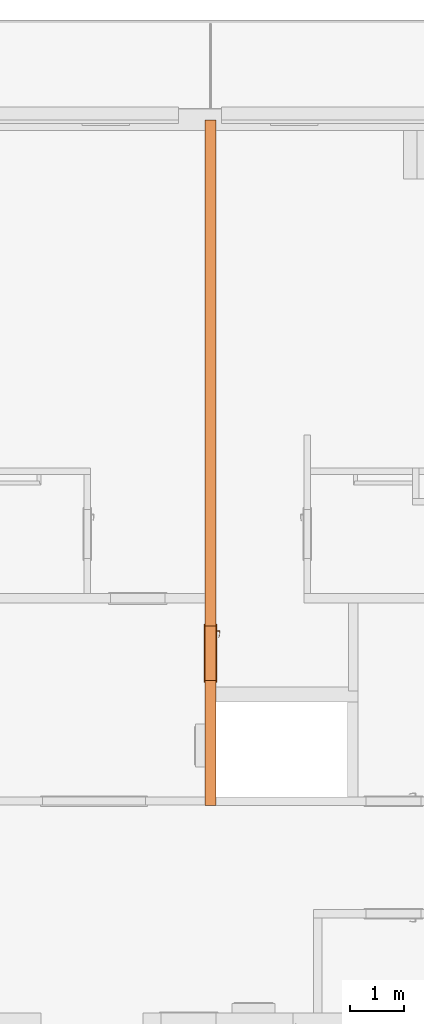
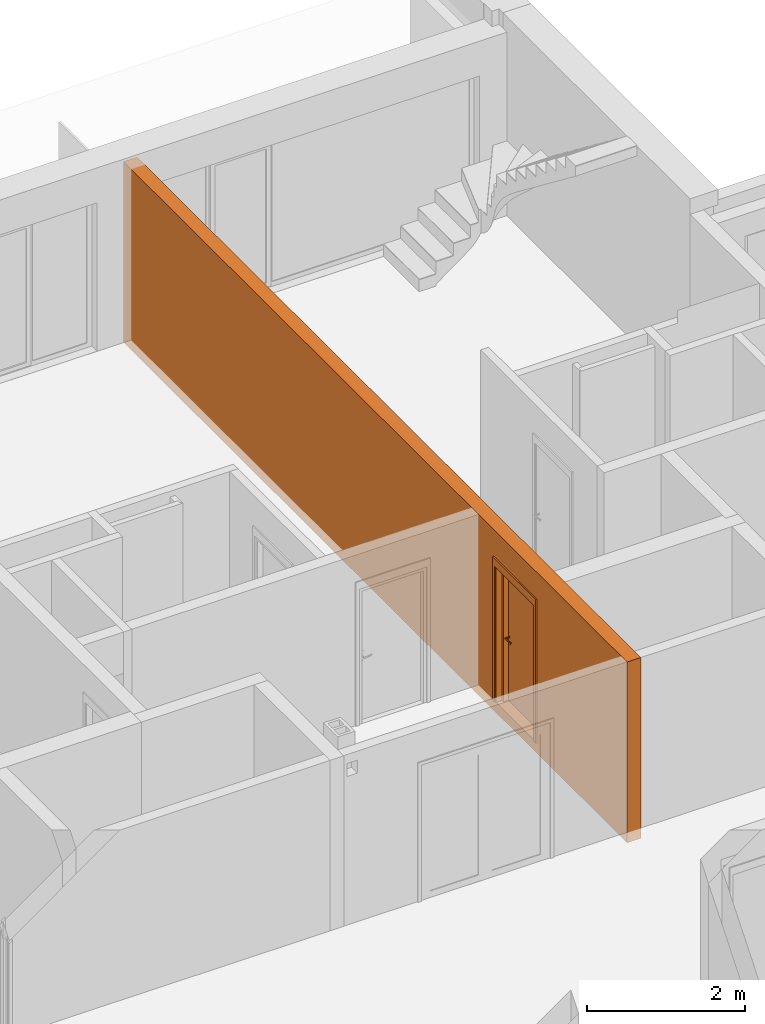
# One storey, part 31 of 61: 2 proxies, 1 opening.
"""IFC2X3 building model written with IfcOpenShell, lengths in millimetres."""

import ifcopenshell
import ifcopenshell.guid

model = None  # the IFC model being written
_history = None  # IfcOwnerHistory: only IFC2X3 demands one
_inside = {}  # id of a spatial element -> (the spatial element, [elements in it])
_under = {}  # id of a project, library or spatial element -> (it, [spatial elements below it])
_declared = {}  # id of a project -> (the project, [libraries it declares])
_typed = {}  # id of a type object -> (the type object, [elements of that type])
_made_of = {}  # id of a material, layer set ... -> (it, [elements and type objects made of it])


def new_model(schema):
    """Start an empty IFC model of exactly this schema.

    Asked for "IFC4X3", IfcOpenShell would pick the latest addendum, in which some entities
    have other attributes; the version numbers below select the first issue.
    IFC2X3 requires an IfcOwnerHistory on every rooted entity: one is made here for all.
    """
    global model, _history
    if schema == "IFC4X3":
        model = ifcopenshell.file(schema_version=(4, 3, 0, 0))
    else:
        model = ifcopenshell.file(schema=schema)
    _inside.clear()
    _under.clear()
    _declared.clear()
    _typed.clear()
    _made_of.clear()
    _history = None
    if model.schema == "IFC2X3":
        org = make("IfcOrganization", Name="unknown")
        user = make(
            "IfcPersonAndOrganization",
            ThePerson=make("IfcPerson", FamilyName="unknown"),
            TheOrganization=org,
        )
        app = make(
            "IfcApplication",
            ApplicationDeveloper=org,
            Version="unknown",
            ApplicationFullName="unknown",
            ApplicationIdentifier="unknown",
        )
        _history = make(
            "IfcOwnerHistory",
            OwningUser=user,
            OwningApplication=app,
            ChangeAction="ADDED",
            CreationDate=0,
        )
    return model


def make(cls, **values):
    """One entity of the class cls with the attributes given. An attribute that is None is left unset."""
    return model.create_entity(
        cls, **{name: value for name, value in values.items() if value is not None}
    )


def entity(cls, *values):
    """Any entity or typed value of the class cls, its attributes in the order of the schema. None: left unset."""
    e = model.create_entity(cls)
    for i, value in enumerate(values):
        if value is not None:
            e[i] = value
    return e


def rooted(cls, **values):
    """An entity with a GlobalId (a new one), such as an element, a storey or a relation."""
    return make(cls, GlobalId=ifcopenshell.guid.new(), OwnerHistory=_history, **values)


def si_unit(unit_type, name, prefix=None):
    """IfcSIUnit, for example si_unit("LENGTHUNIT", "METRE", prefix="MILLI")."""
    return make("IfcSIUnit", UnitType=unit_type, Prefix=prefix, Name=name)


def converted_unit(unit_type, name, factor, base, dimensions=None, offset=None):
    """IfcConversionBasedUnit, such as the inch: factor (a typed value) times the base unit."""
    return make(
        "IfcConversionBasedUnit"
        if offset is None
        else "IfcConversionBasedUnitWithOffset",
        ConversionOffset=offset,
        Dimensions=None
        if dimensions is None
        else entity("IfcDimensionalExponents", *dimensions),
        UnitType=unit_type,
        Name=name,
        ConversionFactor=make(
            "IfcMeasureWithUnit", ValueComponent=factor, UnitComponent=base
        ),
    )


def derived_unit(unit_type, elements):
    """IfcDerivedUnit: a product of units, each with its exponent."""
    return make(
        "IfcDerivedUnit",
        Elements=[
            make("IfcDerivedUnitElement", Unit=unit, Exponent=power)
            for unit, power in elements
        ],
        UnitType=unit_type,
    )


def money_unit(currency):
    """IfcMonetaryUnit."""
    return make("IfcMonetaryUnit", Currency=currency)


def assignment(units):
    """IfcUnitAssignment: the units of a project."""
    return None if units is None else make("IfcUnitAssignment", Units=units)


def point(xyz):
    """IfcCartesianPoint."""
    return None if xyz is None else make("IfcCartesianPoint", Coordinates=xyz)


def direction(xyz):
    """IfcDirection."""
    return None if xyz is None else make("IfcDirection", DirectionRatios=xyz)


def frame(location, z_axis=None, x_axis=None):
    """IfcAxis2Placement3D, a coordinate frame: its origin and axes. An axis left out is left unset."""
    return make(
        "IfcAxis2Placement3D",
        Location=point(location),
        Axis=direction(z_axis),
        RefDirection=direction(x_axis),
    )


def frame_2d(location, x_axis=None):
    """IfcAxis2Placement2D, a coordinate frame in the plane: its origin and x axis."""
    return make(
        "IfcAxis2Placement2D", Location=point(location), RefDirection=direction(x_axis)
    )


def origin_with_axes():
    """The frame at (0, 0, 0) with the z axis (0, 0, 1) and the x axis (1, 0, 0) written out."""
    return frame((0.0, 0.0, 0.0), z_axis=(0.0, 0.0, 1.0), x_axis=(1.0, 0.0, 0.0))


def origin_2d_with_axis():
    """The frame at (0, 0) in the plane with the x axis (1, 0) written out."""
    return frame_2d((0.0, 0.0), x_axis=(1.0, 0.0))


def place(relative_to, where):
    """IfcLocalPlacement: puts the frame where relative to a parent placement (None: the world)."""
    return make(
        "IfcLocalPlacement", PlacementRelTo=relative_to, RelativePlacement=where
    )


def context(
    kind, dimensions, precision=None, world=None, true_north=None, identifier=None
):
    """IfcGeometricRepresentationContext, for example the 3D "Model" context."""
    return make(
        "IfcGeometricRepresentationContext",
        ContextIdentifier=identifier,
        ContextType=kind,
        CoordinateSpaceDimension=dimensions,
        Precision=precision,
        WorldCoordinateSystem=world,
        TrueNorth=true_north,
    )


def subcontext(parent, identifier, kind, view, scale=None):
    """IfcGeometricRepresentationSubContext, for example "Body" below "Model"."""
    return make(
        "IfcGeometricRepresentationSubContext",
        ContextIdentifier=identifier,
        ContextType=kind,
        ParentContext=parent,
        TargetScale=scale,
        TargetView=view,
    )


def project(units=None, contexts=None):
    """IfcProject with its units and contexts."""
    return rooted(
        "IfcProject",
        Name="project",
        RepresentationContexts=contexts,
        UnitsInContext=assignment(units),
    )


def spatial(cls, under=None, at=None, **own):
    """A site, building, storey or space (cls), placed at a placement, below another one or the project."""
    s = rooted(cls, ObjectPlacement=at, **own)
    if under is not None:
        _under.setdefault(under.id(), (under, []))[1].append(s)
    return s


def profile(cls, at=None, kind="AREA", **sizes):
    """A parametric profile (cls). Its sizes go by their IFC names, for example OverallWidth=200.0."""
    return make(cls, ProfileType=kind, Position=at, **sizes)


def rectangle(**sizes):
    """IfcRectangleProfileDef."""
    return profile("IfcRectangleProfileDef", **sizes)


def extrude(swept, where, along, depth):
    """IfcExtrudedAreaSolid: the profile swept, set in the frame where, extruded along a direction by depth."""
    return make(
        "IfcExtrudedAreaSolid",
        SweptArea=swept,
        Position=where,
        ExtrudedDirection=direction(along),
        Depth=depth,
    )


def faces_of(points, faces, orient=None, outer=None):
    """IfcFace entities. A face is a list of loops; a loop is a list of indices into points, from 0.

    orient and outer hold one flag for each loop. By default every Orientation is true, the
    first loop of a face is its IfcFaceOuterBound and the others are IfcFaceBound.
    """
    made = []
    for i, loops in enumerate(faces):
        bounds = []
        for j, loop in enumerate(loops):
            is_outer = j == 0 if outer is None else outer[i][j]
            bounds.append(
                make(
                    "IfcFaceOuterBound" if is_outer else "IfcFaceBound",
                    Bound=make("IfcPolyLoop", Polygon=[points[k] for k in loop]),
                    Orientation=True if orient is None else orient[i][j],
                )
            )
        made.append(make("IfcFace", Bounds=bounds))
    return made


def open_shell(faces, orient=None, outer=None):
    """The faces of one IfcOpenShell. surface_model builds it on its shared points."""
    return ("IfcOpenShell", faces, orient, outer)


def faceted_brep(points, faces, orient=None, outer=None, voids=None):
    """IfcFacetedBrep: a solid bounded by flat faces; with voids (closed shells), ...WithVoids."""
    shared = [point(p) for p in points]
    hull = make("IfcClosedShell", CfsFaces=faces_of(shared, faces, orient, outer))
    if voids is None:
        return make("IfcFacetedBrep", Outer=hull)
    return make(
        "IfcFacetedBrepWithVoids",
        Outer=hull,
        Voids=[
            make(cls, CfsFaces=faces_of(shared, fs, o, b)) for cls, fs, o, b in voids
        ],
    )


def surface_model(cls, points, shells):
    """IfcFaceBasedSurfaceModel or IfcShellBasedSurfaceModel (cls): surfaces that need not close."""
    shared = [point(p) for p in points]
    made = [make(c, CfsFaces=faces_of(shared, fs, o, b)) for c, fs, o, b in shells]
    if cls == "IfcFaceBasedSurfaceModel":
        return make(cls, FbsmFaces=made)
    return make(cls, SbsmBoundary=made)


def shape(context_of_items, identifier, shape_type, items):
    """IfcShapeRepresentation: the items that make up one representation, for example the "Body"."""
    return make(
        "IfcShapeRepresentation",
        ContextOfItems=context_of_items,
        RepresentationIdentifier=identifier,
        RepresentationType=shape_type,
        Items=items,
    )


def source(mapping_origin, context_of_items, identifier, shape_type, items):
    """IfcRepresentationMap: a shape defined once, which mapped items show again and again."""
    return make(
        "IfcRepresentationMap",
        MappingOrigin=mapping_origin,
        MappedRepresentation=shape(context_of_items, identifier, shape_type, items),
    )


def transform(
    local_origin,
    x_axis=None,
    y_axis=None,
    z_axis=None,
    scale=None,
    scale2=None,
    scale3=None,
    uniform=True,
):
    """IfcCartesianTransformationOperator3D, or its non-uniform kind. x_axis, y_axis, z_axis: its Axis1, 2, 3."""
    if uniform:
        return make(
            "IfcCartesianTransformationOperator3D",
            Axis1=direction(x_axis),
            Axis2=direction(y_axis),
            LocalOrigin=point(local_origin),
            Scale=scale,
            Axis3=direction(z_axis),
        )
    return make(
        "IfcCartesianTransformationOperator3DnonUniform",
        Axis1=direction(x_axis),
        Axis2=direction(y_axis),
        LocalOrigin=point(local_origin),
        Scale=scale,
        Axis3=direction(z_axis),
        Scale2=scale2,
        Scale3=scale3,
    )


def mapped(mapping_source, mapping_target):
    """IfcMappedItem: shows the shape of a source again, moved by a transform."""
    return make(
        "IfcMappedItem", MappingSource=mapping_source, MappingTarget=mapping_target
    )


def material(Name=None, Category=None):
    """IfcMaterial."""
    return make("IfcMaterial", Name=Name, Category=Category)


def made_of(thing, what):
    """Note that an element or type object is made of a material, layer set ...; save() writes the relation."""
    if what is not None:
        _made_of.setdefault(what.id(), (what, []))[1].append(thing)
    return thing


def type_object(cls, material=None, **own):
    """A type object (cls), such as IfcWallType, which elements share."""
    return made_of(rooted(cls, **own), material)


def element(
    cls,
    number,
    at=None,
    inside=None,
    cuts=None,
    type_object=None,
    material=None,
    context=None,
    identifier="Body",
    shape_type=None,
    held_by="IfcProductDefinitionShape",
    body=None,
    shapes=None,
    **own,
):
    """One element of the class cls, such as IfcWall. Its Tag is "e" and its number.

    at: its placement. inside: the storey or other place that contains it. cuts: it is an
    opening in that element (IfcRelVoidsElement). A single representation is given by context,
    identifier, shape_type and body (its items); several are given by shapes. held_by: the class
    of the entity that holds the representations. save() writes the other relations.
    """
    e = rooted(cls, Tag="e%d" % number, ObjectPlacement=at, **own)
    if body is not None:
        shapes = [shape(context, identifier, shape_type, body)]
    if shapes is not None:
        e.Representation = make(held_by, Representations=shapes)
    if inside is not None:
        _inside.setdefault(inside.id(), (inside, []))[1].append(e)
    if cuts is not None:
        rooted(
            "IfcRelVoidsElement", RelatingBuildingElement=cuts, RelatedOpeningElement=e
        )
    if type_object is not None:
        _typed.setdefault(type_object.id(), (type_object, []))[1].append(e)
    return made_of(e, material)


def fill(opening, filler):
    """IfcRelFillsElement: the door or window that sits in an opening."""
    return rooted(
        "IfcRelFillsElement",
        RelatingOpeningElement=opening,
        RelatedBuildingElement=filler,
    )


def aggregate(whole, parts):
    """IfcRelAggregates: a whole, such as a stair, and the parts it consists of."""
    return rooted("IfcRelAggregates", RelatingObject=whole, RelatedObjects=parts)


def save(model, path):
    """Write the relations noted so far, then the file.

    IfcRelAggregates (storeys below a building ...), IfcRelContainedInSpatialStructure (elements
    in a storey), IfcRelDefinesByType, IfcRelAssociatesMaterial and IfcRelDeclares: one each for
    every whole, place, type object, material and project.
    """
    for whole, parts in _under.values():
        aggregate(whole, parts)
    for where, things in _inside.values():
        rooted(
            "IfcRelContainedInSpatialStructure",
            RelatedElements=things,
            RelatingStructure=where,
        )
    for kind, things in _typed.values():
        rooted("IfcRelDefinesByType", RelatedObjects=things, RelatingType=kind)
    for what, things in _made_of.values():
        rooted("IfcRelAssociatesMaterial", RelatedObjects=things, RelatingMaterial=what)
    for by, libraries in _declared.values():
        rooted("IfcRelDeclares", RelatingContext=by, RelatedDefinitions=libraries)
    model.write(path)


model = new_model("IFC2X3")

# Units and contexts
model_context = context("Model", 3, precision=0.01, world=origin_with_axes(), true_north=direction((0.34421633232, 0.938890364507)))
body_context = subcontext(model_context, "Body", "Model", "MODEL_VIEW")
ifc_project = project(units=[si_unit("LENGTHUNIT", "METRE", prefix="MILLI"), si_unit("AREAUNIT", "SQUARE_METRE"), si_unit("VOLUMEUNIT", "CUBIC_METRE"), converted_unit("PLANEANGLEUNIT", "DEGREE", entity("IfcPlaneAngleMeasure", 0.0174532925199), si_unit("PLANEANGLEUNIT", "RADIAN"), dimensions=[0, 0, 0, 0, 0, 0, 0]), si_unit("SOLIDANGLEUNIT", "STERADIAN"), money_unit("USD"), converted_unit("TIMEUNIT", "Year", entity("IfcTimeMeasure", 31556926.0), si_unit("TIMEUNIT", "SECOND"), dimensions=[0, 0, 1, 0, 0, 0, 0]), si_unit("MASSUNIT", "GRAM", prefix="KILO"), si_unit("THERMODYNAMICTEMPERATUREUNIT", "DEGREE_CELSIUS"), si_unit("LUMINOUSINTENSITYUNIT", "LUMEN"), si_unit("ENERGYUNIT", "JOULE", prefix="MEGA"), derived_unit("THERMALCONDUCTANCEUNIT", [(si_unit("POWERUNIT", "WATT"), 1), (si_unit("LENGTHUNIT", "METRE"), -1), (si_unit("THERMODYNAMICTEMPERATUREUNIT", "KELVIN"), -1)]), derived_unit("SPECIFICHEATCAPACITYUNIT", [(si_unit("ENERGYUNIT", "JOULE"), 1), (si_unit("MASSUNIT", "GRAM", prefix="KILO"), -1), (si_unit("THERMODYNAMICTEMPERATUREUNIT", "KELVIN"), -1)]), derived_unit("MASSDENSITYUNIT", [(si_unit("MASSUNIT", "GRAM", prefix="KILO"), 1), (si_unit("VOLUMEUNIT", "CUBIC_METRE"), -1)])], contexts=[model_context])

# Site, building, storey
site_placement = place(None, origin_with_axes())
site = spatial("IfcSite", under=ifc_project, at=site_placement, Name="USTRONIE MORSKIE", CompositionType="ELEMENT")
building_placement = place(site_placement, origin_with_axes())
building = spatial("IfcBuilding", under=site, at=building_placement, Name="Budynek", CompositionType="ELEMENT")
storey_placement = place(building_placement, frame((0.0, 0.0, 13000.0), z_axis=(0.0, 0.0, 1.0), x_axis=(1.0, 0.0, 0.0)))
storey = spatial("IfcBuildingStorey", under=building, at=storey_placement, Name="PIĘTRO 4", CompositionType="ELEMENT", Elevation=13000.0)

# Proxies, opening
ifc_material = material(Name="Beton konstrukcyjny B25")
building_element_proxy_type_1 = type_object("IfcBuildingElementProxyType", Name="Beton konstrukcyjny B25 200", PredefinedType="NOTDEFINED")
proxy_1_placement = place(storey_placement, frame((390817.920919, 749451.199036, -160.0), z_axis=(0.0, 0.0, 1.0), x_axis=(0.0, -1.0, 0.0)))
proxy_1 = element("IfcBuildingElementProxy", 1, at=proxy_1_placement, inside=storey, type_object=building_element_proxy_type_1, material=ifc_material, Name="SW-01", context=body_context, shape_type="Brep", body=[
    faceted_brep([(-100.0, -100.0, 2800.0), (12680.0, -100.0, 2800.0), (12680.0, 100.0, 2800.0), (-100.0, 100.0, 2800.0), (-100.0, -100.0, 0.0), (12680.0, -100.0, 0.0), (12680.0, 100.0, 0.0), (-100.0, 100.0, 0.0)], [[[0, 1, 2, 3]], [[4, 5, 1, 0]], [[6, 2, 1, 5]], [[3, 2, 6, 7]], [[7, 4, 0, 3]], [[7, 6, 5, 4]]]),
])
opening_placement = place(proxy_1_placement, frame((9840.0, 0.0, 160.0), z_axis=(0.0, 0.0, 1.0), x_axis=(1.0, 0.0, 0.0)))
opening = element("IfcOpeningElement", 2, at=opening_placement, cuts=proxy_1, Name="Dw.1", context=body_context, shape_type="SweptSolid", body=[
    extrude(rectangle(XDim=1020.0, YDim=2120.0, at=origin_2d_with_axis()), frame((0.0, -200.0, 1060.0), z_axis=(0.0, 1.0, 0.0), x_axis=(1.0, 0.0, 0.0)), (0.0, 0.0, 1.0), 600.0),
    extrude(rectangle(XDim=1094.0, YDim=2227.0, at=origin_2d_with_axis()), frame((0.0, -100.0, 1113.5), z_axis=(0.0, 1.0, 0.0), x_axis=(1.0, 0.0, 0.0)), (0.0, 0.0, -1.0), 200.0),
    extrude(rectangle(XDim=1094.0, YDim=2227.0, at=origin_2d_with_axis()), frame((0.0, 100.0, 1113.5), z_axis=(0.0, -1.0, 0.0), x_axis=(1.0, 0.0, 0.0)), (0.0, 0.0, -1.0), 200.0),
])
building_element_proxy_type_2 = type_object("IfcBuildingElementProxyType", Name="Drzwi 23", PredefinedType="NOTDEFINED")
shared_shape = source(origin_with_axes(), body_context, "Body", "SurfaceModel", [
    faceted_brep([(-510.0, -115.0, 0.0), (-485.0, -115.0, 0.0), (-485.0, -200.0, 0.0), (-510.0, -200.0, 0.0), (-510.0, -115.0, 2120.0), (-485.0, -115.0, 2095.0), (-485.0, -200.0, 2095.0), (-510.0, -200.0, 2120.0)], [[[0, 1, 2, 3]], [[0, 4, 5, 1]], [[1, 5, 6, 2]], [[3, 2, 6, 7]], [[4, 0, 3, 7]], [[5, 4, 7, 6]]]),
    faceted_brep([(510.0, -115.0, 2120.0), (485.0, -115.0, 2095.0), (485.0, -200.0, 2095.0), (510.0, -200.0, 2120.0), (510.0, -115.0, 0.0), (485.0, -115.0, 0.0), (485.0, -200.0, 0.0), (510.0, -200.0, 0.0)], [[[0, 1, 2, 3]], [[0, 4, 5, 1]], [[1, 5, 6, 2]], [[3, 2, 6, 7]], [[4, 0, 3, 7]], [[5, 4, 7, 6]]]),
    faceted_brep([(-485.0, -115.0, 2095.0), (485.0, -115.0, 2095.0), (485.0, -200.0, 2095.0), (-485.0, -200.0, 2095.0), (-510.0, -115.0, 2120.0), (510.0, -115.0, 2120.0), (510.0, -200.0, 2120.0), (-510.0, -200.0, 2120.0)], [[[0, 1, 2, 3]], [[0, 4, 5, 1]], [[1, 5, 6, 2]], [[3, 2, 6, 7]], [[4, 0, 3, 7]], [[5, 4, 7, 6]]]),
    faceted_brep([(-547.0, -219.0, 0.0), (-547.0, -200.0, 0.0), (-497.0, -200.0, 0.0), (-497.0, -219.0, 0.0), (-547.0, -219.0, 2227.0), (-547.0, -200.0, 2227.0), (-497.0, -200.0, 2107.0), (-497.0, -219.0, 2107.0)], [[[0, 1, 2, 3]], [[4, 5, 1, 0]], [[1, 5, 6, 2]], [[3, 2, 6, 7]], [[0, 3, 7, 4]], [[7, 6, 5, 4]]]),
    faceted_brep([(547.0, -219.0, 2227.0), (547.0, -200.0, 2227.0), (497.0, -200.0, 2107.0), (497.0, -219.0, 2107.0), (547.0, -219.0, 0.0), (547.0, -200.0, 0.0), (497.0, -200.0, 0.0), (497.0, -219.0, 0.0)], [[[0, 1, 2, 3]], [[4, 5, 1, 0]], [[1, 5, 6, 2]], [[3, 2, 6, 7]], [[0, 3, 7, 4]], [[7, 6, 5, 4]]]),
    faceted_brep([(-547.0, -219.0, 2227.0), (-547.0, -200.0, 2227.0), (-497.0, -200.0, 2107.0), (-497.0, -219.0, 2107.0), (547.0, -219.0, 2227.0), (547.0, -200.0, 2227.0), (497.0, -200.0, 2107.0), (497.0, -219.0, 2107.0)], [[[0, 1, 2, 3]], [[4, 5, 1, 0]], [[1, 5, 6, 2]], [[3, 2, 6, 7]], [[0, 3, 7, 4]], [[7, 6, 5, 4]]]),
    faceted_brep([(-547.0, 19.0, 0.0), (-497.0, 19.0, 0.0), (-497.0, 0.0, 0.0), (-547.0, 0.0, 0.0), (-547.0, 19.0, 2227.0), (-497.0, 19.0, 2107.0), (-497.0, 0.0, 2107.0), (-547.0, 0.0, 2227.0)], [[[0, 1, 2, 3]], [[0, 4, 5, 1]], [[1, 5, 6, 2]], [[3, 2, 6, 7]], [[4, 0, 3, 7]], [[5, 4, 7, 6]]]),
    faceted_brep([(547.0, 19.0, 2227.0), (497.0, 19.0, 2107.0), (497.0, 0.0, 2107.0), (547.0, 0.0, 2227.0), (547.0, 19.0, 0.0), (497.0, 19.0, 0.0), (497.0, 0.0, 0.0), (547.0, 0.0, 0.0)], [[[0, 1, 2, 3]], [[0, 4, 5, 1]], [[1, 5, 6, 2]], [[3, 2, 6, 7]], [[4, 0, 3, 7]], [[5, 4, 7, 6]]]),
    faceted_brep([(-547.0, 19.0, 2227.0), (-497.0, 19.0, 2107.0), (-497.0, 0.0, 2107.0), (-547.0, 0.0, 2227.0), (547.0, 19.0, 2227.0), (497.0, 19.0, 2107.0), (497.0, 0.0, 2107.0), (547.0, 0.0, 2227.0)], [[[0, 1, 2, 3]], [[0, 4, 5, 1]], [[1, 5, 6, 2]], [[3, 2, 6, 7]], [[4, 0, 3, 7]], [[5, 4, 7, 6]]]),
    faceted_brep([(-450.0, -40.0, 0.0), (-450.0, -40.0, 2050.0), (-450.0, -115.0, 2050.0), (-450.0, -115.0, 0.0), (-462.0, -40.0, 2050.0), (-462.0, -40.0, 0.0), (-462.0, 0.0, 2050.0), (-510.0, 0.0, 2050.0), (-510.0, -115.0, 2050.0), (-510.0, -115.0, 0.0), (-510.0, 0.0, 0.0), (-462.0, 0.0, 0.0)], [[[0, 1, 2, 3]], [[4, 1, 0, 5]], [[4, 6, 7, 8, 2, 1]], [[3, 2, 8, 9]], [[5, 0, 3, 9, 10, 11]], [[6, 4, 5, 11]], [[6, 11, 10, 7]], [[10, 9, 8, 7]]]),
    faceted_brep([(462.0, -40.0, 2050.0), (450.0, -40.0, 2050.0), (450.0, -115.0, 2050.0), (510.0, -115.0, 2050.0), (510.0, 0.0, 2050.0), (462.0, 0.0, 2050.0), (462.0, -40.0, 0.0), (450.0, -40.0, 0.0), (450.0, -115.0, 0.0), (510.0, -115.0, 0.0), (510.0, 0.0, 0.0), (462.0, 0.0, 0.0)], [[[0, 1, 2, 3, 4, 5]], [[1, 0, 6, 7]], [[1, 7, 8, 2]], [[3, 2, 8, 9]], [[4, 3, 9, 10]], [[11, 5, 4, 10]], [[0, 5, 11, 6]], [[6, 11, 10, 9, 8, 7]]]),
    faceted_brep([(-462.0, 0.0, 2062.0), (-462.0, 0.0, 2050.0), (-510.0, 0.0, 2050.0), (-510.0, 0.0, 2120.0), (510.0, 0.0, 2120.0), (510.0, 0.0, 2050.0), (462.0, 0.0, 2050.0), (462.0, 0.0, 2062.0), (-462.0, -40.0, 2062.0), (-462.0, -40.0, 2050.0), (-450.0, -40.0, 2050.0), (-450.0, -115.0, 2050.0), (-510.0, -115.0, 2050.0), (-510.0, -115.0, 2120.0), (510.0, -115.0, 2120.0), (510.0, -115.0, 2050.0), (462.0, -40.0, 2050.0), (450.0, -115.0, 2050.0), (450.0, -40.0, 2050.0), (462.0, -40.0, 2062.0)], [[[0, 1, 2, 3, 4, 5, 6, 7]], [[1, 0, 8, 9]], [[9, 10, 11, 12, 2, 1]], [[2, 12, 13, 3]], [[3, 13, 14, 4]], [[4, 14, 15, 5]], [[16, 6, 5, 15, 17, 18]], [[7, 6, 16, 19]], [[0, 7, 19, 8]], [[16, 18, 10, 9, 8, 19]], [[10, 18, 17, 11]], [[17, 15, 14, 13, 12, 11]]]),
    faceted_brep([(-440.5, -40.0, 1060.0), (-440.5, -43.0, 1060.0), (-383.5, -43.0, 1060.0), (-383.5, -40.0, 1060.0), (-440.5, -40.0, 870.0), (-440.5, -43.0, 870.0), (-383.5, -43.0, 870.0), (-383.5, -40.0, 870.0)], [[[0, 1, 2, 3]], [[4, 5, 1, 0]], [[1, 5, 6, 2]], [[3, 2, 6, 7]], [[0, 3, 7, 4]], [[7, 6, 5, 4]]]),
    faceted_brep([(-412.0, -104.0, 990.0), (-412.0, -111.0, 990.0), (-417.0, -111.0, 991.339745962), (-417.0, -104.0, 991.339745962), (-387.0, -104.0, 990.0), (-387.0, -111.0, 990.0), (-387.0, -111.0, 1010.0), (-412.0, -111.0, 1010.0), (-417.0, -111.0, 1008.66025404), (-420.660254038, -111.0, 1005.0), (-422.0, -111.0, 1000.0), (-420.660254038, -111.0, 995.0), (-420.660254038, -104.0, 995.0), (-422.0, -104.0, 1000.0), (-420.660254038, -104.0, 1005.0), (-417.0, -104.0, 1008.66025404), (-412.0, -104.0, 1010.0), (-387.0, -104.0, 1010.0)], [[[0, 1, 2, 3]], [[4, 5, 1, 0]], [[1, 5, 6, 7, 8, 9, 10, 11, 2]], [[3, 2, 11, 12]], [[0, 3, 12, 13, 14, 15, 16, 17, 4]], [[17, 6, 5, 4]], [[16, 7, 6, 17]], [[15, 8, 7, 16]], [[14, 9, 8, 15]], [[13, 10, 9, 14]], [[12, 11, 10, 13]]]),
    surface_model("IfcShellBasedSurfaceModel", [(-387.0, -104.0, 1010.0), (-373.596090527, -111.0, 1009.60730092), (-373.901717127, -104.0, 1009.60730092), (-387.0, -111.0, 1010.0), (-346.890283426, -108.663544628, 1008.82190275), (-373.901717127, -104.0, 990.392699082), (-387.0, -104.0, 990.0), (-387.0, -111.0, 990.0), (-373.596090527, -111.0, 990.392699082), (-346.890283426, -108.663544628, 991.178097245), (-347.804837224, -101.716818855, 1008.82190275), (-347.804837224, -101.716818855, 991.178097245), (-320.489735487, -104.008415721, 991.963495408), (-320.489735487, -104.008415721, 1008.03650459), (-322.006256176, -97.1678329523, 1008.03650459), (-322.006256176, -97.1678329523, 991.963495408), (-294.59537082, -97.0700416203, 992.748893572), (-294.59537082, -97.0700416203, 1007.25110643), (-296.702316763, -90.3876628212, 1007.25110643), (-296.702316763, -90.3876628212, 992.748893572), (-286.538795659, -94.1376880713, 993.0), (-286.538795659, -94.1376880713, 1007.0), (-288.829442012, -87.5221707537, 1007.0), (-288.829442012, -87.5221707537, 993.0)], [open_shell([[[0, 1, 2]], [[0, 3, 1]], [[2, 1, 4]], [[0, 2, 5, 6]], [[3, 7, 8, 1]], [[1, 8, 9, 4]], [[2, 4, 10]], [[2, 10, 11, 5]], [[5, 7, 6]], [[5, 8, 7]], [[11, 9, 8]], [[4, 9, 12, 13]], [[10, 4, 13]], [[10, 14, 15, 11]], [[11, 8, 5]], [[15, 9, 11]], [[15, 12, 9]], [[13, 12, 16, 17]], [[10, 13, 14]], [[14, 18, 19, 15]], [[19, 12, 15]], [[19, 16, 12]], [[17, 16, 20, 21]], [[14, 13, 17]], [[14, 17, 18]], [[18, 22, 23, 19]], [[23, 16, 19]], [[23, 20, 16]], [[22, 21, 20, 23]], [[18, 17, 21]], [[18, 21, 22]]])]),
    faceted_brep([(-401.607695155, -53.0, 994.0), (-400.741669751, -43.0, 993.5), (-399.0, -43.0, 1000.0), (-400.0, -53.0, 1000.0), (-406.0, -53.0, 989.607695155), (-405.5, -43.0, 988.741669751), (-412.0, -43.0, 987.0), (-418.5, -43.0, 988.741669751), (-423.258330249, -43.0, 993.5), (-425.0, -43.0, 1000.0), (-423.258330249, -43.0, 1006.5), (-418.5, -43.0, 1011.25833025), (-412.0, -43.0, 1013.0), (-405.5, -43.0, 1011.25833025), (-400.741669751, -43.0, 1006.5), (-401.607695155, -53.0, 1006.0), (-406.0, -53.0, 1010.39230485), (-412.0, -53.0, 1012.0), (-418.0, -53.0, 1010.39230485), (-422.392304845, -53.0, 1006.0), (-424.0, -53.0, 1000.0), (-422.392304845, -53.0, 994.0), (-418.0, -53.0, 989.607695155), (-412.0, -53.0, 988.0)], [[[0, 1, 2, 3]], [[4, 5, 1, 0]], [[2, 1, 5, 6, 7, 8, 9, 10, 11, 12, 13, 14]], [[3, 2, 14, 15]], [[3, 15, 16, 17, 18, 19, 20, 21, 22, 23, 4, 0]], [[23, 6, 5, 4]], [[22, 7, 6, 23]], [[21, 8, 7, 22]], [[20, 9, 8, 21]], [[19, 10, 9, 20]], [[18, 11, 10, 19]], [[17, 12, 11, 18]], [[16, 13, 12, 17]], [[15, 14, 13, 16]]]),
    faceted_brep([(-394.679491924, -47.0, 895.0), (-392.947441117, -43.0, 894.0), (-390.0, -43.0, 905.0), (-392.0, -47.0, 905.0), (-402.0, -47.0, 887.679491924), (-401.0, -43.0, 885.947441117), (-412.0, -43.0, 883.0), (-423.0, -43.0, 885.947441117), (-431.052558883, -43.0, 894.0), (-434.0, -43.0, 905.0), (-431.052558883, -43.0, 916.0), (-423.0, -43.0, 924.052558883), (-412.0, -43.0, 927.0), (-401.0, -43.0, 924.052558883), (-392.947441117, -43.0, 916.0), (-394.679491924, -47.0, 915.0), (-402.0, -47.0, 922.320508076), (-412.0, -47.0, 925.0), (-422.0, -47.0, 922.320508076), (-429.320508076, -47.0, 915.0), (-432.0, -47.0, 905.0), (-429.320508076, -47.0, 895.0), (-422.0, -47.0, 887.679491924), (-412.0, -47.0, 885.0)], [[[0, 1, 2, 3]], [[4, 5, 1, 0]], [[2, 1, 5, 6, 7, 8, 9, 10, 11, 12, 13, 14]], [[3, 2, 14, 15]], [[3, 15, 16, 17, 18, 19, 20, 21, 22, 23, 4, 0]], [[23, 6, 5, 4]], [[22, 7, 6, 23]], [[21, 8, 7, 22]], [[20, 9, 8, 21]], [[19, 10, 9, 20]], [[18, 11, 10, 19]], [[17, 12, 11, 18]], [[16, 13, 12, 17]], [[15, 14, 13, 16]]]),
    faceted_brep([(-407.050252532, -49.0, 909.050252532), (-406.343145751, -47.0, 908.343145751), (-404.0, -47.0, 914.0), (-405.0, -49.0, 914.0), (-412.0, -49.0, 907.0), (-412.0, -47.0, 906.0), (-417.656854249, -47.0, 908.343145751), (-420.0, -47.0, 914.0), (-417.656854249, -47.0, 919.656854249), (-412.0, -47.0, 922.0), (-406.343145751, -47.0, 919.656854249), (-407.050252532, -49.0, 918.949747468), (-412.0, -49.0, 921.0), (-416.949747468, -49.0, 918.949747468), (-419.0, -49.0, 914.0), (-416.949747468, -49.0, 909.050252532)], [[[0, 1, 2, 3]], [[4, 5, 1, 0]], [[2, 1, 5, 6, 7, 8, 9, 10]], [[3, 2, 10, 11]], [[3, 11, 12, 13, 14, 15, 4, 0]], [[15, 6, 5, 4]], [[14, 7, 6, 15]], [[13, 8, 7, 14]], [[12, 9, 8, 13]], [[11, 10, 9, 12]]]),
    faceted_brep([(-412.0, -53.0, 1010.0), (-412.0, -104.0, 1010.0), (-407.0, -104.0, 1008.66025404), (-407.0, -53.0, 1008.66025404), (-417.0, -53.0, 1008.66025404), (-417.0, -104.0, 1008.66025404), (-420.660254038, -104.0, 1005.0), (-422.0, -104.0, 1000.0), (-420.660254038, -104.0, 995.0), (-417.0, -104.0, 991.339745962), (-412.0, -104.0, 990.0), (-407.0, -104.0, 991.339745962), (-403.339745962, -104.0, 995.0), (-402.0, -104.0, 1000.0), (-403.339745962, -104.0, 1005.0), (-403.339745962, -53.0, 1005.0), (-402.0, -53.0, 1000.0), (-403.339745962, -53.0, 995.0), (-407.0, -53.0, 991.339745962), (-412.0, -53.0, 990.0), (-417.0, -53.0, 991.339745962), (-420.660254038, -53.0, 995.0), (-422.0, -53.0, 1000.0), (-420.660254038, -53.0, 1005.0)], [[[0, 1, 2, 3]], [[4, 5, 1, 0]], [[1, 5, 6, 7, 8, 9, 10, 11, 12, 13, 14, 2]], [[3, 2, 14, 15]], [[0, 3, 15, 16, 17, 18, 19, 20, 21, 22, 23, 4]], [[23, 6, 5, 4]], [[22, 7, 6, 23]], [[21, 8, 7, 22]], [[20, 9, 8, 21]], [[19, 10, 9, 20]], [[18, 11, 10, 19]], [[17, 12, 11, 18]], [[16, 13, 12, 17]], [[15, 14, 13, 16]]]),
    faceted_brep([(-440.5, 0.0, 1060.0), (-383.5, 0.0, 1060.0), (-383.5, 3.0, 1060.0), (-440.5, 3.0, 1060.0), (-440.5, 0.0, 870.0), (-383.5, 0.0, 870.0), (-383.5, 3.0, 870.0), (-440.5, 3.0, 870.0)], [[[0, 1, 2, 3]], [[0, 4, 5, 1]], [[1, 5, 6, 2]], [[3, 2, 6, 7]], [[4, 0, 3, 7]], [[5, 4, 7, 6]]]),
    faceted_brep([(-412.0, 64.0, 990.0), (-417.0, 64.0, 991.339745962), (-417.0, 71.0, 991.339745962), (-412.0, 71.0, 990.0), (-387.0, 64.0, 990.0), (-387.0, 64.0, 1010.0), (-412.0, 64.0, 1010.0), (-417.0, 64.0, 1008.66025404), (-420.660254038, 64.0, 1005.0), (-422.0, 64.0, 1000.0), (-420.660254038, 64.0, 995.0), (-420.660254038, 71.0, 995.0), (-422.0, 71.0, 1000.0), (-420.660254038, 71.0, 1005.0), (-417.0, 71.0, 1008.66025404), (-412.0, 71.0, 1010.0), (-387.0, 71.0, 1010.0), (-387.0, 71.0, 990.0)], [[[0, 1, 2, 3]], [[0, 4, 5, 6, 7, 8, 9, 10, 1]], [[1, 10, 11, 2]], [[3, 2, 11, 12, 13, 14, 15, 16, 17]], [[4, 0, 3, 17]], [[5, 4, 17, 16]], [[6, 5, 16, 15]], [[7, 6, 15, 14]], [[8, 7, 14, 13]], [[9, 8, 13, 12]], [[10, 9, 12, 11]]]),
    surface_model("IfcShellBasedSurfaceModel", [(-387.0, 64.0, 1010.0), (-373.901717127, 64.0, 1009.60730092), (-373.596090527, 71.0, 1009.60730092), (-387.0, 64.0, 990.0), (-373.901717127, 64.0, 990.392699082), (-346.890283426, 68.6635446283, 1008.82190275), (-387.0, 71.0, 1010.0), (-387.0, 71.0, 990.0), (-347.804837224, 61.716818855, 991.178097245), (-347.804837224, 61.716818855, 1008.82190275), (-346.890283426, 68.6635446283, 991.178097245), (-373.596090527, 71.0, 990.392699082), (-322.006256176, 57.1678329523, 991.963495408), (-322.006256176, 57.1678329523, 1008.03650459), (-320.489735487, 64.0084157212, 1008.03650459), (-320.489735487, 64.0084157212, 991.963495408), (-296.702316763, 50.3876628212, 992.748893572), (-296.702316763, 50.3876628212, 1007.25110643), (-294.59537082, 57.0700416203, 1007.25110643), (-294.59537082, 57.0700416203, 992.748893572), (-288.829442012, 47.5221707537, 993.0), (-288.829442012, 47.5221707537, 1007.0), (-286.538795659, 54.1376880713, 1007.0), (-286.538795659, 54.1376880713, 993.0)], [open_shell([[[0, 1, 2]], [[0, 3, 4, 1]], [[1, 5, 2]], [[0, 2, 6]], [[4, 3, 7]], [[1, 4, 8, 9]], [[1, 9, 5]], [[2, 5, 10, 11]], [[6, 2, 11, 7]], [[4, 7, 11]], [[8, 4, 11]], [[9, 8, 12, 13]], [[9, 14, 5]], [[5, 14, 15, 10]], [[8, 11, 10]], [[12, 8, 10]], [[13, 12, 16, 17]], [[9, 13, 14]], [[14, 18, 19, 15]], [[12, 10, 15]], [[16, 12, 15]], [[17, 16, 20, 21]], [[13, 17, 18]], [[13, 18, 14]], [[18, 22, 23, 19]], [[16, 15, 19]], [[20, 16, 19]], [[21, 20, 23, 22]], [[17, 21, 22]], [[17, 22, 18]], [[20, 19, 23]]])]),
    faceted_brep([(-401.607695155, 13.0, 994.0), (-400.0, 13.0, 1000.0), (-399.0, 3.0, 1000.0), (-400.741669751, 3.0, 993.5), (-406.0, 13.0, 989.607695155), (-412.0, 13.0, 988.0), (-418.0, 13.0, 989.607695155), (-422.392304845, 13.0, 994.0), (-424.0, 13.0, 1000.0), (-422.392304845, 13.0, 1006.0), (-418.0, 13.0, 1010.39230485), (-412.0, 13.0, 1012.0), (-406.0, 13.0, 1010.39230485), (-401.607695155, 13.0, 1006.0), (-400.741669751, 3.0, 1006.5), (-405.5, 3.0, 1011.25833025), (-412.0, 3.0, 1013.0), (-418.5, 3.0, 1011.25833025), (-423.258330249, 3.0, 1006.5), (-425.0, 3.0, 1000.0), (-423.258330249, 3.0, 993.5), (-418.5, 3.0, 988.741669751), (-412.0, 3.0, 987.0), (-405.5, 3.0, 988.741669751)], [[[0, 1, 2, 3]], [[1, 0, 4, 5, 6, 7, 8, 9, 10, 11, 12, 13]], [[1, 13, 14, 2]], [[2, 14, 15, 16, 17, 18, 19, 20, 21, 22, 23, 3]], [[4, 0, 3, 23]], [[5, 4, 23, 22]], [[6, 5, 22, 21]], [[7, 6, 21, 20]], [[8, 7, 20, 19]], [[9, 8, 19, 18]], [[10, 9, 18, 17]], [[11, 10, 17, 16]], [[12, 11, 16, 15]], [[13, 12, 15, 14]]]),
    faceted_brep([(-394.679491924, 7.0, 895.0), (-392.0, 7.0, 905.0), (-390.0, 3.0, 905.0), (-392.947441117, 3.0, 894.0), (-402.0, 7.0, 887.679491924), (-412.0, 7.0, 885.0), (-422.0, 7.0, 887.679491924), (-429.320508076, 7.0, 895.0), (-432.0, 7.0, 905.0), (-429.320508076, 7.0, 915.0), (-422.0, 7.0, 922.320508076), (-412.0, 7.0, 925.0), (-402.0, 7.0, 922.320508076), (-394.679491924, 7.0, 915.0), (-392.947441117, 3.0, 916.0), (-401.0, 3.0, 924.052558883), (-412.0, 3.0, 927.0), (-423.0, 3.0, 924.052558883), (-431.052558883, 3.0, 916.0), (-434.0, 3.0, 905.0), (-431.052558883, 3.0, 894.0), (-423.0, 3.0, 885.947441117), (-412.0, 3.0, 883.0), (-401.0, 3.0, 885.947441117)], [[[0, 1, 2, 3]], [[1, 0, 4, 5, 6, 7, 8, 9, 10, 11, 12, 13]], [[1, 13, 14, 2]], [[2, 14, 15, 16, 17, 18, 19, 20, 21, 22, 23, 3]], [[4, 0, 3, 23]], [[5, 4, 23, 22]], [[6, 5, 22, 21]], [[7, 6, 21, 20]], [[8, 7, 20, 19]], [[9, 8, 19, 18]], [[10, 9, 18, 17]], [[11, 10, 17, 16]], [[12, 11, 16, 15]], [[13, 12, 15, 14]]]),
    faceted_brep([(-407.050252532, 9.0, 909.050252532), (-405.0, 9.0, 914.0), (-404.0, 7.0, 914.0), (-406.343145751, 7.0, 908.343145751), (-412.0, 9.0, 907.0), (-416.949747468, 9.0, 909.050252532), (-419.0, 9.0, 914.0), (-416.949747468, 9.0, 918.949747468), (-412.0, 9.0, 921.0), (-407.050252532, 9.0, 918.949747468), (-406.343145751, 7.0, 919.656854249), (-412.0, 7.0, 922.0), (-417.656854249, 7.0, 919.656854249), (-420.0, 7.0, 914.0), (-417.656854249, 7.0, 908.343145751), (-412.0, 7.0, 906.0)], [[[0, 1, 2, 3]], [[1, 0, 4, 5, 6, 7, 8, 9]], [[1, 9, 10, 2]], [[2, 10, 11, 12, 13, 14, 15, 3]], [[4, 0, 3, 15]], [[5, 4, 15, 14]], [[6, 5, 14, 13]], [[7, 6, 13, 12]], [[8, 7, 12, 11]], [[9, 8, 11, 10]]]),
    faceted_brep([(-412.0, 13.0, 1010.0), (-407.0, 13.0, 1008.66025404), (-407.0, 64.0, 1008.66025404), (-412.0, 64.0, 1010.0), (-417.0, 13.0, 1008.66025404), (-420.660254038, 13.0, 1005.0), (-422.0, 13.0, 1000.0), (-420.660254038, 13.0, 995.0), (-417.0, 13.0, 991.339745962), (-412.0, 13.0, 990.0), (-407.0, 13.0, 991.339745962), (-403.339745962, 13.0, 995.0), (-402.0, 13.0, 1000.0), (-403.339745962, 13.0, 1005.0), (-403.339745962, 64.0, 1005.0), (-402.0, 64.0, 1000.0), (-403.339745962, 64.0, 995.0), (-407.0, 64.0, 991.339745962), (-412.0, 64.0, 990.0), (-417.0, 64.0, 991.339745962), (-420.660254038, 64.0, 995.0), (-422.0, 64.0, 1000.0), (-420.660254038, 64.0, 1005.0), (-417.0, 64.0, 1008.66025404)], [[[0, 1, 2, 3]], [[0, 4, 5, 6, 7, 8, 9, 10, 11, 12, 13, 1]], [[1, 13, 14, 2]], [[3, 2, 14, 15, 16, 17, 18, 19, 20, 21, 22, 23]], [[4, 0, 3, 23]], [[5, 4, 23, 22]], [[6, 5, 22, 21]], [[7, 6, 21, 20]], [[8, 7, 20, 19]], [[9, 8, 19, 18]], [[10, 9, 18, 17]], [[11, 10, 17, 16]], [[12, 11, 16, 15]], [[13, 12, 15, 14]]]),
    faceted_brep([(462.0, 0.0, 0.0), (462.0, -40.0, 0.0), (-462.0, -40.0, 0.0), (-462.0, 0.0, 0.0), (462.0, 0.0, 2062.0), (462.0, -40.0, 2062.0), (-462.0, -40.0, 2062.0), (-462.0, 0.0, 2062.0)], [[[0, 1, 2, 3]], [[4, 5, 1, 0]], [[1, 5, 6, 2]], [[3, 2, 6, 7]], [[0, 3, 7, 4]], [[7, 6, 5, 4]]]),
])
proxy_2_placement = place(opening_placement, frame((-450.0, 0.0, 0.0), z_axis=(0.0, 0.0, 1.0), x_axis=(1.0, 0.0, 0.0)))
proxy_2 = element("IfcBuildingElementProxy", 3, at=proxy_2_placement, inside=storey, type_object=building_element_proxy_type_2, Name="Dw.1", context=body_context, shape_type="MappedRepresentation", body=[
    mapped(shared_shape, transform((450.0, 100.0, 0.0))),
])
fill(opening, proxy_2)

save(model, "model.ifc")
